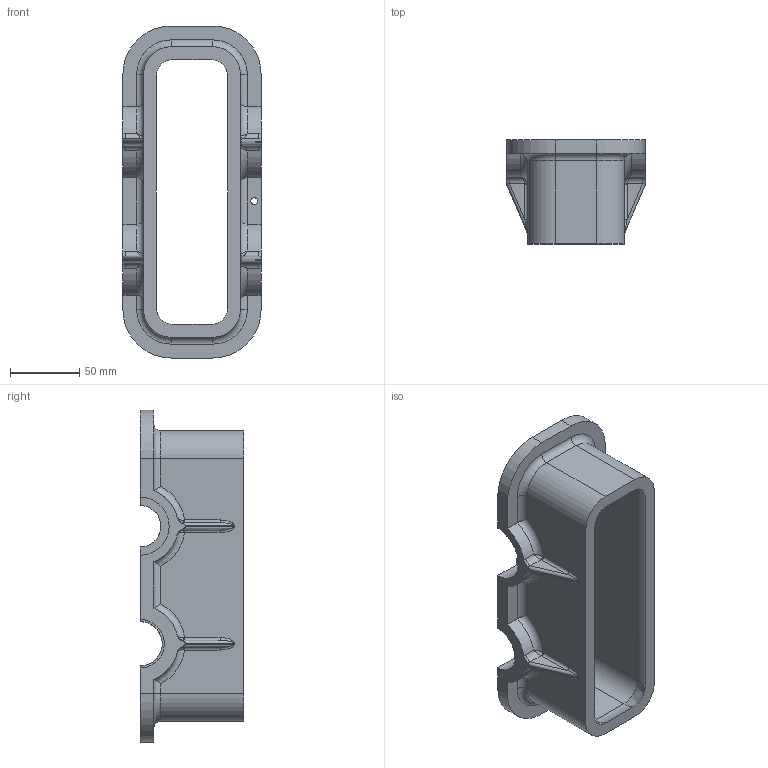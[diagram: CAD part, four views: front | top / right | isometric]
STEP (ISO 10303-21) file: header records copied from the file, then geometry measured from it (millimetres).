
FILE_DESCRIPTION(/* description */ (''),/* implementation_level */ '2;1');
FILE_NAME(/* name */ 'C:\Users\user\Desktop\Ensamble-reductor-sin-engranes-V2022\GearBoxTop.stp',/* time_stamp */ '2023-02-15T20:28:31-05:00',/* author */ ('user'),/* organization */ (''),/* preprocessor_version */ 'ST-DEVELOPER v18.1',/* originating_system */ 'Autodesk Inventor 2022',/* authorisation */ '');
FILE_SCHEMA (('AUTOMOTIVE_DESIGN { 1 0 10303 214 3 1 1 }'));
Length unit declared in the file: millimetre
Products named in the file (1): GearBox
Bounding box: 100 x 75 x 240 mm (x, y, z)
Volume: 320806.7 mm3; surface area: 102225.6 mm2
Topology: 1 solids, 1 shells, 166 faces, 423 edges, 250 vertices
Faces by surface type: cylinder 69, plane 45, bspline 36, torus 12, cone 4
Full cylindrical faces by diameter (mm): 5 x1
Entity records: 6415 total; most frequent: CARTESIAN_POINT 2465, ORIENTED_EDGE 830, DIRECTION 771, EDGE_CURVE 415, AXIS2_PLACEMENT_3D 293, VERTEX_POINT 250, LINE 185, VECTOR 185
